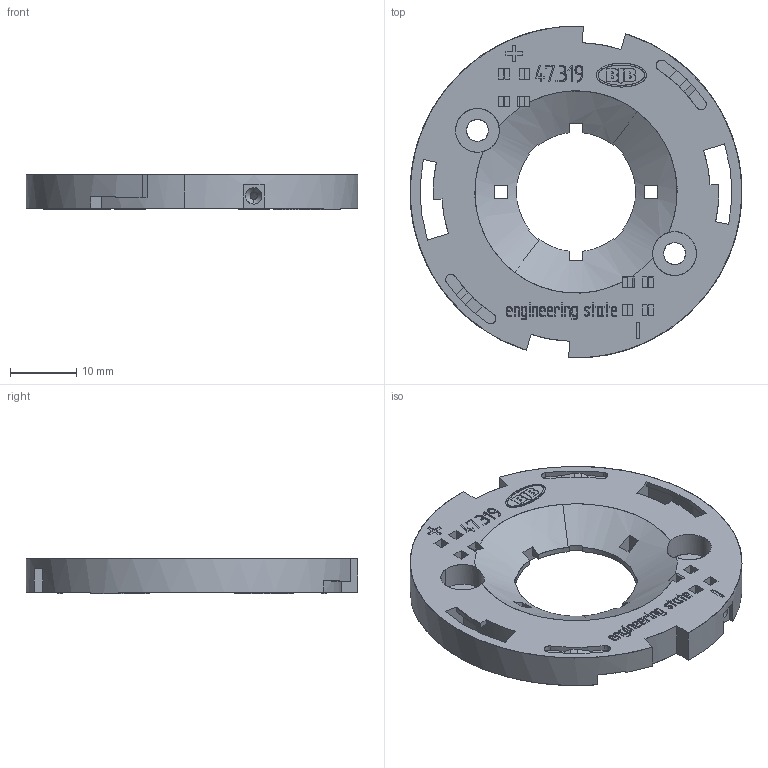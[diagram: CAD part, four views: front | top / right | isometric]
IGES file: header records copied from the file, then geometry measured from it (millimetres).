
Global section: file name: C:\coretechnologie2013\3D-in/01TYA3VY03.igs; native system: CT CoreTechnologie 3D Evolution; preprocessor: 2006; author: assmuth; date: 1140126.134017; units: millimetre
Bounding box: 49.99 x 49.95 x 5.35 mm (x, y, z)
Surface area: 7217.7 mm2 (no closed solid volume)
Topology: 0 solids, 0 shells, 719 faces, 3918 edges, 3918 vertices
Faces by surface type: bspline 719
